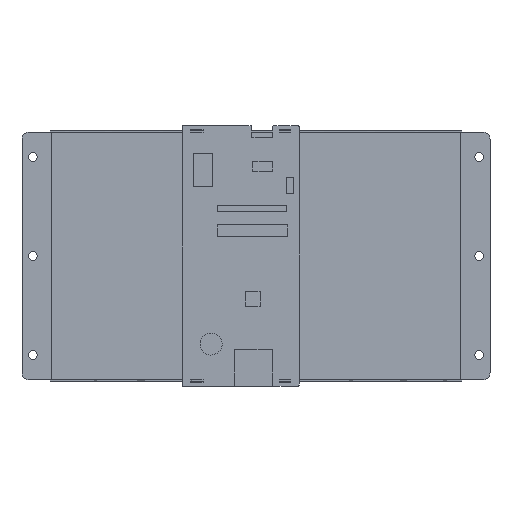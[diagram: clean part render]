
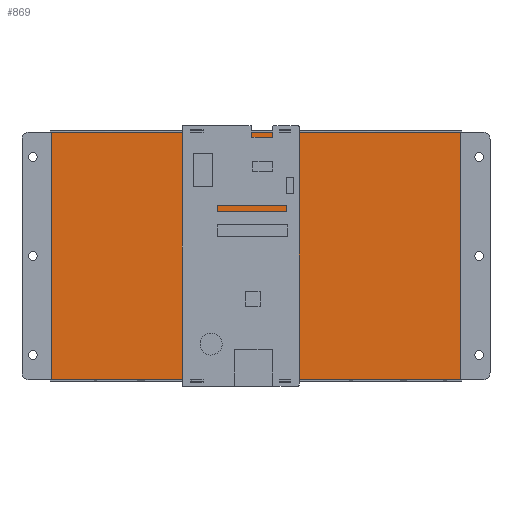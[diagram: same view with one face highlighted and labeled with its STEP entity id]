
A CAD part, front view. The second image highlights one B-rep face of the part: STEP entity #869.
In plain terms, the highlighted planar face has unit normal (0, -1, 0).
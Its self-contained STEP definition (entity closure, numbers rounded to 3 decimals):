
#125=B_SPLINE_CURVE_WITH_KNOTS('',3,(#7775,#7776,#7777,#7778),.UNSPECIFIED.,
 .F.,.F.,(4,4),(0.,1.),.UNSPECIFIED.);
#127=B_SPLINE_CURVE_WITH_KNOTS('',3,(#7789,#7790,#7791,#7792),.UNSPECIFIED.,
 .F.,.F.,(4,4),(0.,1.),.UNSPECIFIED.);
#129=B_SPLINE_CURVE_WITH_KNOTS('',3,(#7801,#7802,#7803,#7804),.UNSPECIFIED.,
 .F.,.F.,(4,4),(0.,1.),.UNSPECIFIED.);
#131=B_SPLINE_CURVE_WITH_KNOTS('',3,(#7810,#7811,#7812,#7813),.UNSPECIFIED.,
 .F.,.F.,(4,4),(0.,1.),.UNSPECIFIED.);
#613=FACE_OUTER_BOUND('',#1427,.T.);
#869=ADVANCED_FACE('',(#613),#1114,.F.);
#1114=PLANE('',#5529);
#1427=EDGE_LOOP('',(#2505,#2506,#2507,#2508));
#2505=ORIENTED_EDGE('',*,*,#3897,.T.);
#2506=ORIENTED_EDGE('',*,*,#3901,.T.);
#2507=ORIENTED_EDGE('',*,*,#3904,.T.);
#2508=ORIENTED_EDGE('',*,*,#3906,.T.);
#3267=VERTEX_POINT('',#7774);
#3268=VERTEX_POINT('',#7779);
#3270=VERTEX_POINT('',#7788);
#3272=VERTEX_POINT('',#7800);
#3897=EDGE_CURVE('',#3268,#3267,#125,.T.);
#3901=EDGE_CURVE('',#3267,#3270,#127,.T.);
#3904=EDGE_CURVE('',#3270,#3272,#129,.T.);
#3906=EDGE_CURVE('',#3272,#3268,#131,.T.);
#5529=AXIS2_PLACEMENT_3D('',#7815,#6469,#6470);
#6469=DIRECTION('',(0.,1.,0.));
#6470=DIRECTION('',(0.,0.,1.));
#7774=CARTESIAN_POINT('',(82.45,-3.15,-50.));
#7775=CARTESIAN_POINT('',(-82.45,-3.15,-50.));
#7776=CARTESIAN_POINT('',(-27.483,-3.15,-50.));
#7777=CARTESIAN_POINT('',(27.483,-3.15,-50.));
#7778=CARTESIAN_POINT('',(82.45,-3.15,-50.));
#7779=CARTESIAN_POINT('',(-82.45,-3.15,-50.));
#7788=CARTESIAN_POINT('',(82.45,-3.15,50.));
#7789=CARTESIAN_POINT('',(82.45,-3.15,-50.));
#7790=CARTESIAN_POINT('',(82.45,-3.15,-16.667));
#7791=CARTESIAN_POINT('',(82.45,-3.15,16.667));
#7792=CARTESIAN_POINT('',(82.45,-3.15,50.));
#7800=CARTESIAN_POINT('',(-82.45,-3.15,50.));
#7801=CARTESIAN_POINT('',(82.45,-3.15,50.));
#7802=CARTESIAN_POINT('',(27.483,-3.15,50.));
#7803=CARTESIAN_POINT('',(-27.483,-3.15,50.));
#7804=CARTESIAN_POINT('',(-82.45,-3.15,50.));
#7810=CARTESIAN_POINT('',(-82.45,-3.15,50.));
#7811=CARTESIAN_POINT('',(-82.45,-3.15,16.667));
#7812=CARTESIAN_POINT('',(-82.45,-3.15,-16.667));
#7813=CARTESIAN_POINT('',(-82.45,-3.15,-50.));
#7815=CARTESIAN_POINT('',(0.,-3.15,-50.));
